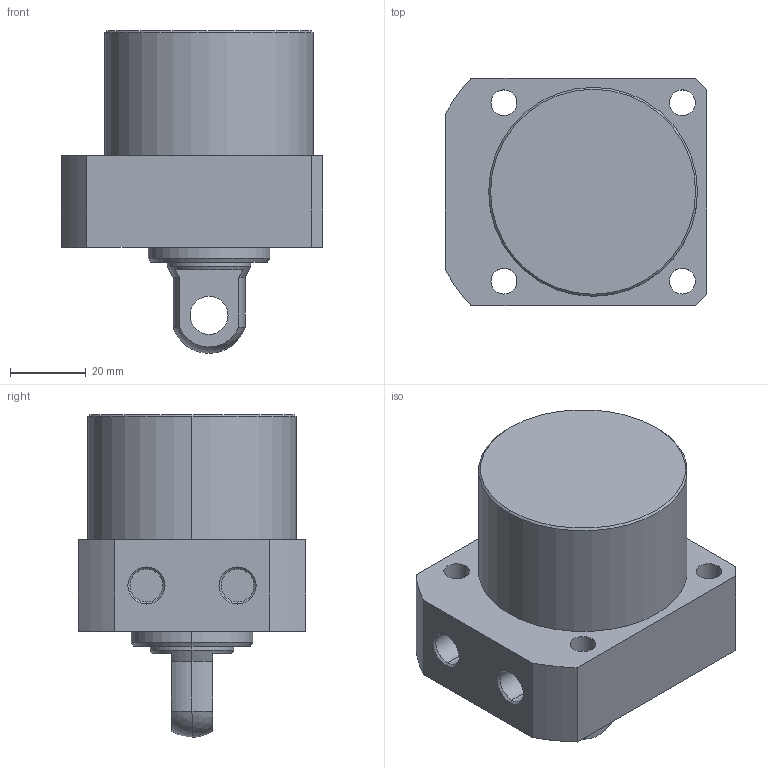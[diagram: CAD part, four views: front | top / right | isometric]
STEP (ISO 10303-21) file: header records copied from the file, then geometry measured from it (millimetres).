
FILE_DESCRIPTION (( 'STEP AP203' ), '1' );
FILE_NAME ('CLLR-055CP-020.STEP', '2019-12-19T08:19:09', ( '' ), ( '' ), 'SwSTEP 2.0', 'SolidWorks 2015', '' );
FILE_SCHEMA (( 'CONFIG_CONTROL_DESIGN' ));
Length unit declared in the file: millimetre
Products named in the file (1): CLLR-055CP-020
Bounding box: 69 x 60 x 85 mm (x, y, z)
Volume: 177651.6 mm3; surface area: 23979.9 mm2
Topology: 1 solids, 1 shells, 59 faces, 139 edges, 89 vertices
Faces by surface type: cylinder 29, plane 18, cone 10, sphere 2
Entity records: 1820 total; most frequent: DIRECTION 329, CARTESIAN_POINT 300, ORIENTED_EDGE 278, EDGE_CURVE 139, AXIS2_PLACEMENT_3D 134, VERTEX_POINT 89, EDGE_LOOP 76, CIRCLE 74
